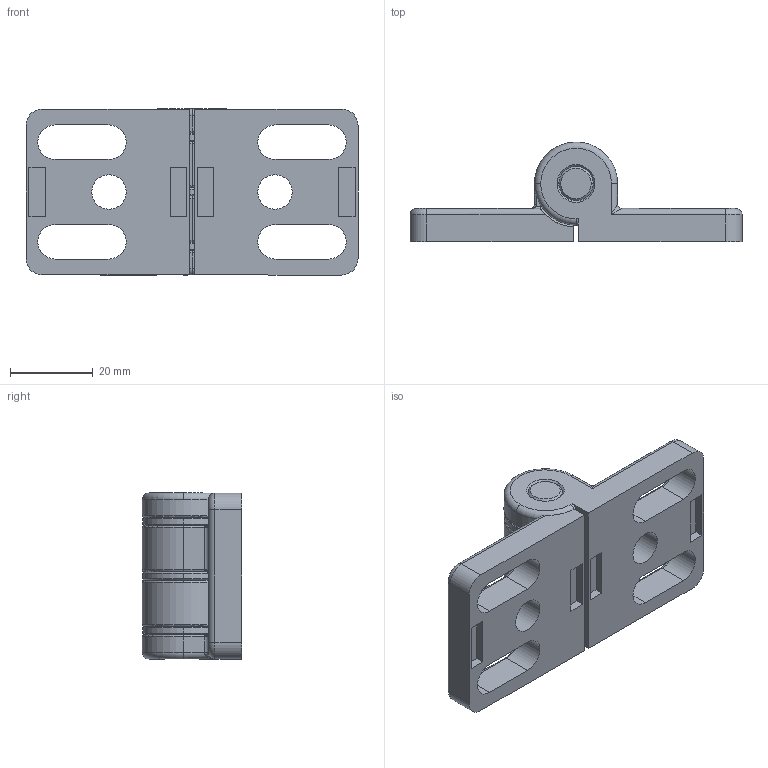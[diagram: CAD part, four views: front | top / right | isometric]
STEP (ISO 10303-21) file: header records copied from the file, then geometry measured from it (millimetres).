
FILE_DESCRIPTION (( 'STEP AP214' ), '1' );
FILE_NAME ('4.03.SPSLH.STEP', '2015-05-31T09:38:09', ( '' ), ( '' ), 'SwSTEP 2.0', 'SolidWorks 2015', '' );
FILE_SCHEMA (( 'AUTOMOTIVE_DESIGN' ));
Length unit declared in the file: millimetre
Products named in the file (1): 4.03.SPSLH
Bounding box: 80 x 24 x 40 mm (x, y, z)
Volume: 29362.2 mm3; surface area: 16488.5 mm2
Topology: 6 solids, 6 shells, 229 faces, 556 edges, 335 vertices
Faces by surface type: cylinder 96, plane 62, torus 43, cone 20, bspline 8
Entity records: 9038 total; most frequent: CARTESIAN_POINT 3533, DIRECTION 1188, ORIENTED_EDGE 1096, EDGE_CURVE 548, AXIS2_PLACEMENT_3D 467, VERTEX_POINT 335, EDGE_LOOP 259, VECTOR 254
